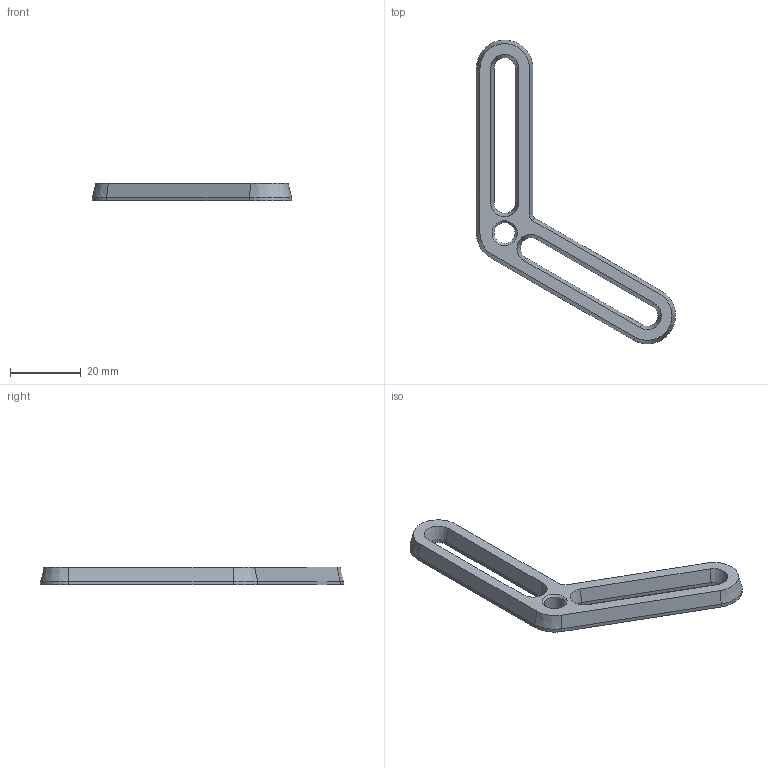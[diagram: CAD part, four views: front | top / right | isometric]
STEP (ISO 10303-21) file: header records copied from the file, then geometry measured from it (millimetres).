
FILE_DESCRIPTION(/* description */ (''),/* implementation_level */ '2;1');
FILE_NAME(/* name */ 'Edge Brace.step',/* time_stamp */ '2025-09-09T10:18:48+08:00',/* author */ (''),/* organization */ (''),/* preprocessor_version */ 'ST-DEVELOPER v20.1',/* originating_system */ 'Autodesk Translation Framework v14.10.0.0',/* authorisation */ '');
FILE_SCHEMA (('AUTOMOTIVE_DESIGN { 1 0 10303 214 3 1 1 }'));
Length unit declared in the file: millimetre
Products named in the file (1): Hex Light
Bounding box: 56.37 x 85.93 x 5 mm (x, y, z)
Volume: 4889.2 mm3; surface area: 4149.9 mm2
Topology: 1 solids, 1 shells, 36 faces, 85 edges, 51 vertices
Faces by surface type: plane 18, cone 9, cylinder 9
Full cylindrical faces by diameter (mm): 5.9 x1
Entity records: 1100 total; most frequent: DIRECTION 186, CARTESIAN_POINT 173, ORIENTED_EDGE 170, EDGE_CURVE 85, AXIS2_PLACEMENT_3D 64, LINE 58, VECTOR 58, VERTEX_POINT 51
